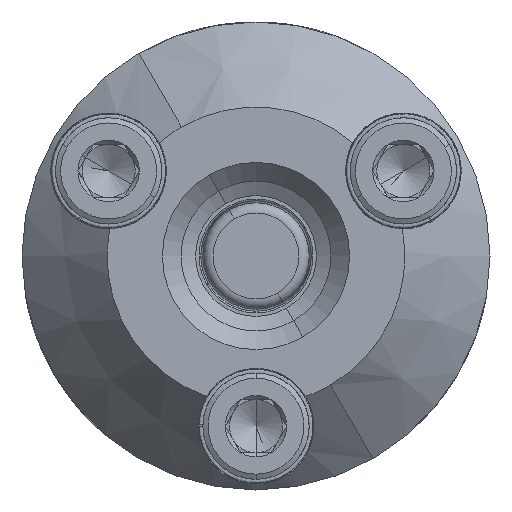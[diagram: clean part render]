
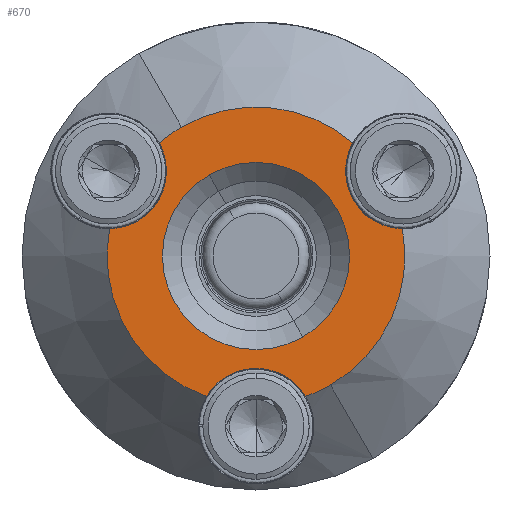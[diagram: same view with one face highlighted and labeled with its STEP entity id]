
A CAD part, front view. The second image highlights one B-rep face of the part: STEP entity #670.
In plain terms, the highlighted planar face has unit normal (0, -1, 0).
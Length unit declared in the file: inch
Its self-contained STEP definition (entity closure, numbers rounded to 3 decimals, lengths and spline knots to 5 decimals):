
#670 = ADVANCED_FACE ( 'NONE', ( #47048, #27555 ), #24819, .F. ) ;
#688 = CARTESIAN_POINT ( 'NONE',  ( 0.43012, -1.07, 0.08002 ) ) ;
#899 = AXIS2_PLACEMENT_3D ( 'NONE', #5961, #38105, #10562 ) ;
#1064 = CIRCLE ( 'NONE', #49474, 0.4375 ) ;
#1129 = EDGE_CURVE ( 'NONE', #23459, #17742, #39729, .T. ) ;
#2590 = VERTEX_POINT ( 'NONE', #19033 ) ;
#2821 = EDGE_LOOP ( 'NONE', ( #41379, #37246, #42600, #31159, #43529, #20372, #36767, #18254, #57005, #29050 ) ) ;
#2837 = CARTESIAN_POINT ( 'NONE',  ( -0.1375, -1.07, 0.23816 ) ) ;
#3501 = VERTEX_POINT ( 'NONE', #13978 ) ;
#5961 = CARTESIAN_POINT ( 'NONE',  ( -0.43301, -1.07, 0.25 ) ) ;
#6383 = DIRECTION ( 'NONE',  ( 0., -1., 0. ) ) ;
#6406 = DIRECTION ( 'NONE',  ( -0.5, 0., 0.866 ) ) ;
#6842 = VERTEX_POINT ( 'NONE', #32097 ) ;
#6996 = CARTESIAN_POINT ( 'NONE',  ( 0., -1.07, 0. ) ) ;
#8589 = CARTESIAN_POINT ( 'NONE',  ( -0.14576, -1.07, -0.41251 ) ) ;
#8702 = DIRECTION ( 'NONE',  ( 0., -1., 0. ) ) ;
#8804 = VERTEX_POINT ( 'NONE', #13425 ) ;
#9326 = CIRCLE ( 'NONE', #20960, 0.275 ) ;
#9470 = AXIS2_PLACEMENT_3D ( 'NONE', #30499, #21165, #11380 ) ;
#9896 = AXIS2_PLACEMENT_3D ( 'NONE', #44936, #59004, #17358 ) ;
#10562 = DIRECTION ( 'NONE',  ( 0.5, 0., 0.866 ) ) ;
#10582 = CIRCLE ( 'NONE', #19925, 0.17 ) ;
#11380 = DIRECTION ( 'NONE',  ( -0.5, 0., 0.866 ) ) ;
#12343 = EDGE_CURVE ( 'NONE', #56505, #23459, #44004, .T. ) ;
#13425 = CARTESIAN_POINT ( 'NONE',  ( 0.1375, -1.07, -0.23816 ) ) ;
#13791 = CARTESIAN_POINT ( 'NONE',  ( 0.14576, -1.07, -0.41251 ) ) ;
#13978 = CARTESIAN_POINT ( 'NONE',  ( -0.28436, -1.07, 0.33248 ) ) ;
#14052 = DIRECTION ( 'NONE',  ( 0.5, 0., -0.866 ) ) ;
#14815 = DIRECTION ( 'NONE',  ( 0.5, 0., 0.866 ) ) ;
#14977 = DIRECTION ( 'NONE',  ( 0., -1., 0. ) ) ;
#15728 = EDGE_CURVE ( 'NONE', #56505, #48530, #19170, .T. ) ;
#16350 = AXIS2_PLACEMENT_3D ( 'NONE', #24675, #38196, #14815 ) ;
#16550 = CARTESIAN_POINT ( 'NONE',  ( -0.34801, -1.07, 0.10278 ) ) ;
#17358 = DIRECTION ( 'NONE',  ( -1., 0., 0. ) ) ;
#17742 = VERTEX_POINT ( 'NONE', #688 ) ;
#18254 = ORIENTED_EDGE ( 'NONE', *, *, #15728, .F. ) ;
#19033 = CARTESIAN_POINT ( 'NONE',  ( -0.43012, -1.07, 0.08002 ) ) ;
#19170 = CIRCLE ( 'NONE', #9896, 0.17 ) ;
#19658 = VERTEX_POINT ( 'NONE', #8589 ) ;
#19925 = AXIS2_PLACEMENT_3D ( 'NONE', #31464, #8702, #45498 ) ;
#20372 = ORIENTED_EDGE ( 'NONE', *, *, #27677, .T. ) ;
#20860 = AXIS2_PLACEMENT_3D ( 'NONE', #49055, #35769, #40349 ) ;
#20960 = AXIS2_PLACEMENT_3D ( 'NONE', #54779, #59210, #54576 ) ;
#21165 = DIRECTION ( 'NONE',  ( 0., -1., 0. ) ) ;
#21985 = AXIS2_PLACEMENT_3D ( 'NONE', #56651, #14977, #29123 ) ;
#22887 = DIRECTION ( 'NONE',  ( -0.5, 0., 0.866 ) ) ;
#23459 = VERTEX_POINT ( 'NONE', #57564 ) ;
#24675 = CARTESIAN_POINT ( 'NONE',  ( -0.43301, -1.07, 0.25 ) ) ;
#24819 = PLANE ( 'NONE',  #29367 ) ;
#26605 = CIRCLE ( 'NONE', #899, 0.17 ) ;
#27555 = FACE_BOUND ( 'NONE', #51084, .T. ) ;
#27677 = EDGE_CURVE ( 'NONE', #2590, #19658, #1064, .T. ) ;
#28444 = CIRCLE ( 'NONE', #16350, 0.17 ) ;
#28662 = DIRECTION ( 'NONE',  ( 0.5, 0., -0.866 ) ) ;
#28748 = AXIS2_PLACEMENT_3D ( 'NONE', #46083, #45693, #14052 ) ;
#28925 = EDGE_CURVE ( 'NONE', #50893, #3501, #46958, .T. ) ;
#29050 = ORIENTED_EDGE ( 'NONE', *, *, #1129, .T. ) ;
#29123 = DIRECTION ( 'NONE',  ( -0.5, 0., 0.866 ) ) ;
#29367 = AXIS2_PLACEMENT_3D ( 'NONE', #6996, #29700, #6406 ) ;
#29700 = DIRECTION ( 'NONE',  ( 0., 1., 0. ) ) ;
#29813 = EDGE_CURVE ( 'NONE', #6842, #17742, #51918, .T. ) ;
#30499 = CARTESIAN_POINT ( 'NONE',  ( 0., -1.07, 0. ) ) ;
#30977 = VERTEX_POINT ( 'NONE', #16550 ) ;
#30996 = EDGE_CURVE ( 'NONE', #6842, #50893, #51756, .T. ) ;
#31159 = ORIENTED_EDGE ( 'NONE', *, *, #48672, .F. ) ;
#31347 = EDGE_CURVE ( 'NONE', #41905, #8804, #9326, .T. ) ;
#31464 = CARTESIAN_POINT ( 'NONE',  ( 0., -1.07, -0.5 ) ) ;
#31610 = EDGE_CURVE ( 'NONE', #8804, #41905, #54614, .T. ) ;
#32097 = CARTESIAN_POINT ( 'NONE',  ( 0.28436, -1.07, 0.33248 ) ) ;
#33021 = AXIS2_PLACEMENT_3D ( 'NONE', #43128, #6383, #28662 ) ;
#33521 = ORIENTED_EDGE ( 'NONE', *, *, #31610, .F. ) ;
#35769 = DIRECTION ( 'NONE',  ( 0., -1., 0. ) ) ;
#36279 = DIRECTION ( 'NONE',  ( -0.5, 0., 0.866 ) ) ;
#36612 = CARTESIAN_POINT ( 'NONE',  ( 0., -1.07, 0. ) ) ;
#36767 = ORIENTED_EDGE ( 'NONE', *, *, #57289, .F. ) ;
#37246 = ORIENTED_EDGE ( 'NONE', *, *, #30996, .T. ) ;
#38105 = DIRECTION ( 'NONE',  ( 0., -1., 0. ) ) ;
#38196 = DIRECTION ( 'NONE',  ( 0., -1., 0. ) ) ;
#39729 = CIRCLE ( 'NONE', #20860, 0.4375 ) ;
#39838 = AXIS2_PLACEMENT_3D ( 'NONE', #36612, #45455, #22887 ) ;
#40349 = DIRECTION ( 'NONE',  ( -0.5, 0., 0.866 ) ) ;
#40860 = CARTESIAN_POINT ( 'NONE',  ( 0., -1.07, 0. ) ) ;
#41379 = ORIENTED_EDGE ( 'NONE', *, *, #29813, .F. ) ;
#41905 = VERTEX_POINT ( 'NONE', #2837 ) ;
#42600 = ORIENTED_EDGE ( 'NONE', *, *, #28925, .T. ) ;
#42718 = EDGE_CURVE ( 'NONE', #2590, #30977, #28444, .T. ) ;
#43128 = CARTESIAN_POINT ( 'NONE',  ( 0.43301, -1.07, 0.25 ) ) ;
#43529 = ORIENTED_EDGE ( 'NONE', *, *, #42718, .F. ) ;
#44004 = CIRCLE ( 'NONE', #21985, 0.4375 ) ;
#44630 = CARTESIAN_POINT ( 'NONE',  ( -0.085, -1.07, -0.35278 ) ) ;
#44936 = CARTESIAN_POINT ( 'NONE',  ( 0., -1.07, -0.5 ) ) ;
#45455 = DIRECTION ( 'NONE',  ( 0., -1., 0. ) ) ;
#45498 = DIRECTION ( 'NONE',  ( -1., 0., 0. ) ) ;
#45693 = DIRECTION ( 'NONE',  ( 0., -1., 0. ) ) ;
#46083 = CARTESIAN_POINT ( 'NONE',  ( 0., -1.07, 0. ) ) ;
#46958 = CIRCLE ( 'NONE', #39838, 0.4375 ) ;
#47048 = FACE_OUTER_BOUND ( 'NONE', #2821, .T. ) ;
#48530 = VERTEX_POINT ( 'NONE', #44630 ) ;
#48672 = EDGE_CURVE ( 'NONE', #30977, #3501, #26605, .T. ) ;
#49055 = CARTESIAN_POINT ( 'NONE',  ( 0., -1.07, 0. ) ) ;
#49474 = AXIS2_PLACEMENT_3D ( 'NONE', #40860, #54544, #36279 ) ;
#50893 = VERTEX_POINT ( 'NONE', #57496 ) ;
#51084 = EDGE_LOOP ( 'NONE', ( #33521, #54223 ) ) ;
#51756 = CIRCLE ( 'NONE', #9470, 0.4375 ) ;
#51918 = CIRCLE ( 'NONE', #33021, 0.17 ) ;
#54223 = ORIENTED_EDGE ( 'NONE', *, *, #31347, .F. ) ;
#54544 = DIRECTION ( 'NONE',  ( 0., -1., 0. ) ) ;
#54576 = DIRECTION ( 'NONE',  ( 0.5, 0., -0.866 ) ) ;
#54614 = CIRCLE ( 'NONE', #28748, 0.275 ) ;
#54779 = CARTESIAN_POINT ( 'NONE',  ( 0., -1.07, 0. ) ) ;
#56505 = VERTEX_POINT ( 'NONE', #13791 ) ;
#56651 = CARTESIAN_POINT ( 'NONE',  ( 0., -1.07, 0. ) ) ;
#57005 = ORIENTED_EDGE ( 'NONE', *, *, #12343, .T. ) ;
#57289 = EDGE_CURVE ( 'NONE', #48530, #19658, #10582, .T. ) ;
#57496 = CARTESIAN_POINT ( 'NONE',  ( -0.21875, -1.07, 0.37889 ) ) ;
#57564 = CARTESIAN_POINT ( 'NONE',  ( 0.21875, -1.07, -0.37889 ) ) ;
#59004 = DIRECTION ( 'NONE',  ( 0., -1., 0. ) ) ;
#59210 = DIRECTION ( 'NONE',  ( 0., -1., 0. ) ) ;
